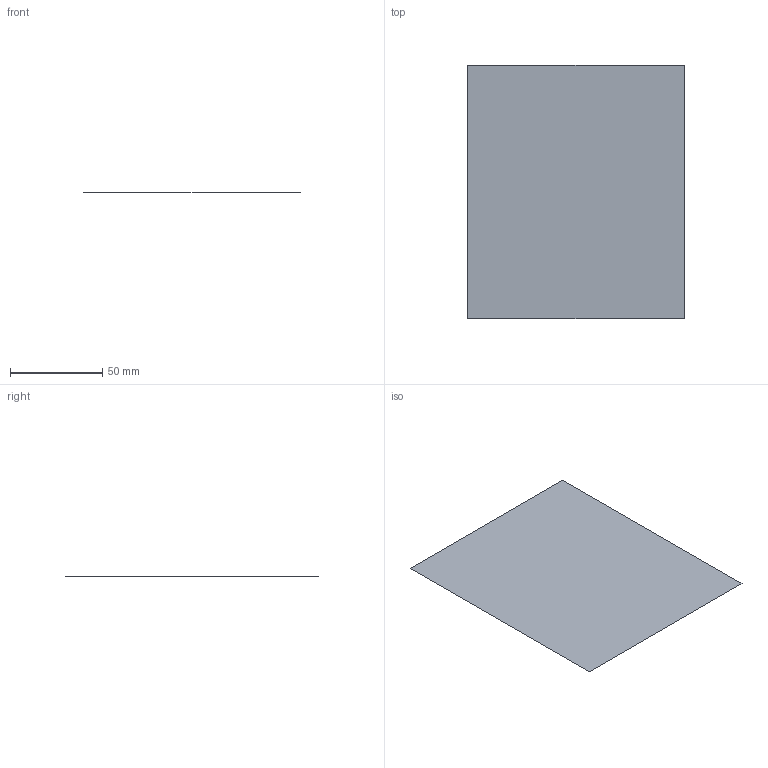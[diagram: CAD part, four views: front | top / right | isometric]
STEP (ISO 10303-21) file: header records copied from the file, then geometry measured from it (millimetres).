
FILE_DESCRIPTION(('CATIA V5 STEP Exchange'),'2;1');
FILE_NAME('C:\_Andres\UNIVERSIDAD\IQS\ASIGNATURAS\DAO\EXF\EXF-15161c\1original\Vallsmadella_Quintanilla_Ej06-calculo_v27.stp','2016-03-04T20:57:44+00:00',('none'),('none'),'CATIA Version 5 Release 20 SP 1 (IN-10)','CATIA V5 STEP AP203','none');
FILE_SCHEMA(('CONFIG_CONTROL_DESIGN'));
Length unit declared in the file: millimetre
Products named in the file (1): Vallsmadella_Quintanilla_Ej06-calculo_v27
Bounding box: 117 x 137 x 0 mm (x, y, z)
Surface area: 16029 mm2 (no closed solid volume)
Topology: 0 solids, 1 shells, 1 faces, 8 edges, 9 vertices
Faces by surface type: plane 1
Entity records: 130 total; most frequent: CARTESIAN_POINT 23, DIRECTION 12, VECTOR 8, LINE 8, COMPOSITE_CURVE_SEGMENT 4, ORIENTED_EDGE 4, CC_DESIGN_PERSON_AND_ORGANIZATION_ASSIGNMENT 4, PERSON_AND_ORGANIZATION_ROLE 4
